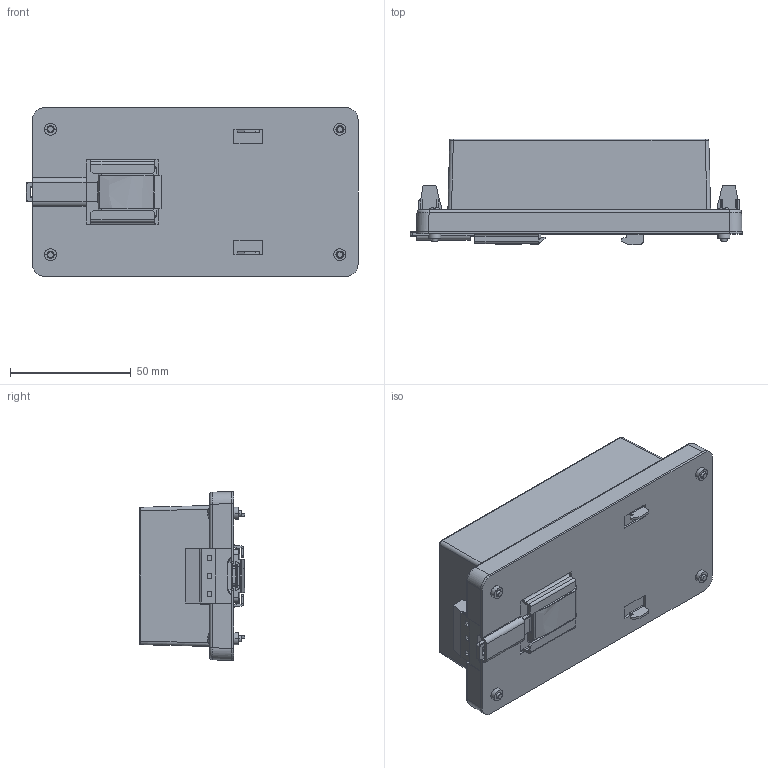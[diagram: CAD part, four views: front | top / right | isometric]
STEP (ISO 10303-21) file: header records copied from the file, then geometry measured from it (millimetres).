
FILE_DESCRIPTION((''),'2;1');
FILE_NAME('1111111111111111_ASM','2023-02-28T',('pe205'),(''),'PRO/ENGINEER BY PARAMETRIC TECHNOLOGY CORPORATION, 2014000','PRO/ENGINEER BY PARAMETRIC TECHNOLOGY CORPORATION, 2014000','');
FILE_SCHEMA(('CONFIG_CONTROL_DESIGN'));
Length unit declared in the file: millimetre
Products named in the file (27): LD60_40F_1_1_2_1; BOTTOM_CASE_2_2_1; BRAKCET_1_2_1; BRACKET_ASM_1_ASM_ASM_2_ASM_1_ASM; LOCK_60_4_2_1; SPRING_LH6040_1_2_1; SCREW_M3X12_1_2_1; PRT0007; ASM0003_ASM; ASM0002_ASM; 11050074_LHE60_M_-A_1_4_2_1; LHE60-23BXX_ASM_1_ASM_2_ASM_1_A_ASM; LHE60-23BXX_ASM_4_ASM_1_ASM_1_ASM; LHE60-23BXX_ASM_ASM_5_ASM_1_ASM; MANIFOLD_SOLID_BREP_618734_1; MANIFOLD_SOLID_BREP_618954_1; MANIFOLD_SOLID_BREP_619174_1; PRT0001_3_ASM_1_ASM; MANIFOLD_SOLID_BREP_621499_1; MANIFOLD_SOLID_BREP_621719_1; MANIFOLD_SOLID_BREP_621939_1; PRT0001-1_2_ASM_1_ASM; LH40_60_ASM_ASM_1_ASM_ASM_5_ASM_ASM; LH40_60_0520_ASM_ASM_3_ASM_1_ASM; 0-LH40_60_0520-TZFZ_ASM_12_ASM__ASM; PV40-29BXXR3_ASM_1_ASM; 1111111111111111_ASM
Assembly tree (29 placements, depth 11):
  1111111111111111_ASM
    PV40-29BXXR3_ASM_1_ASM
      0-LH40_60_0520-TZFZ_ASM_12_ASM__ASM
        LH40_60_0520_ASM_ASM_3_ASM_1_ASM
          LH40_60_ASM_ASM_1_ASM_ASM_5_ASM_ASM
            LD60_40F_1_1_2_1
            BOTTOM_CASE_2_2_1
            BRACKET_ASM_1_ASM_ASM_2_ASM_1_ASM
              BRAKCET_1_2_1
            LOCK_60_4_2_1
            SPRING_LH6040_1_2_1
            SCREW_M3X12_1_2_1  x4
            LHE60-23BXX_ASM_ASM_5_ASM_1_ASM
              LHE60-23BXX_ASM_4_ASM_1_ASM_1_ASM
                LHE60-23BXX_ASM_1_ASM_2_ASM_1_A_ASM
                  ASM0002_ASM
                  11050074_LHE60_M_-A_1_4_2_1
            PRT0001_3_ASM_1_ASM
              MANIFOLD_SOLID_BREP_618734_1
              MANIFOLD_SOLID_BREP_618954_1
              MANIFOLD_SOLID_BREP_619174_1
            PRT0001-1_2_ASM_1_ASM
              MANIFOLD_SOLID_BREP_621499_1
              MANIFOLD_SOLID_BREP_621719_1
              MANIFOLD_SOLID_BREP_621939_1
Bounding box: 137.7 x 43.8 x 70 mm (x, y, z)
Volume: 246373.7 mm3; surface area: 109518.8 mm2
Topology: 17 solids, 17 shells, 1380 faces, 3774 edges, 2462 vertices
Faces by surface type: plane 918, cylinder 292, cone 56, torus 48, bspline 32, extrusion 22, sphere 12
Entity records: 49100 total; most frequent: CARTESIAN_POINT 12704, ORIENTED_EDGE 7088, DIRECTION 6651, EDGE_CURVE 3544, VECTOR 2613, LINE 2591, VERTEX_POINT 2312, AXIS2_PLACEMENT_3D 2019
